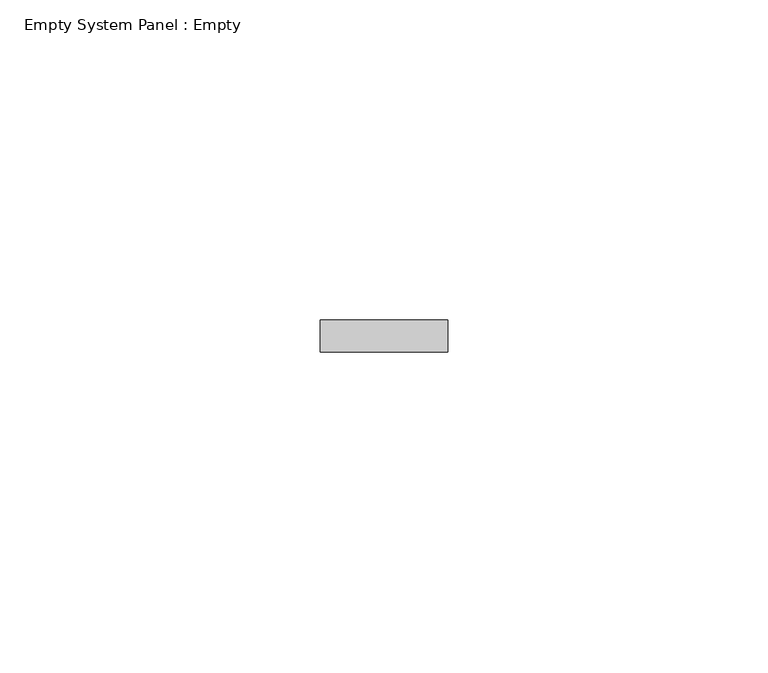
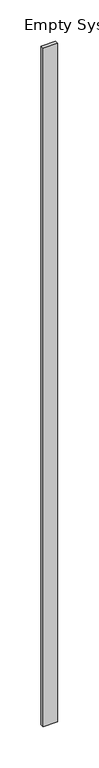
"""IFC4 building model written with IfcOpenShell, lengths in millimetres: plate geometry, Empty System Panel : Empty."""

from ifc_helpers import new_model, si_unit, origin, origin_with_axes, place, context, project, spatial, polyline, outline, extrude, source, transform, mapped, element, save


def empty_system_panel_empty_9846729f(model_context):
    return source(origin(), model_context, "Body", "SweptSolid", [
        extrude(outline(polyline([(9.9999998, 97.5), (-9.9999998, 97.5), (-9.9999998, 102.5), (9.9999998, 102.5), (9.9999998, 97.5)])), origin_with_axes(), (0.0, 0.0, 1.0), 1000.0),
    ])


if __name__ == "__main__":
    model = new_model("IFC4")
    model_context = context("Model", 3, world=origin())
    ifc_project = project(units=[si_unit("LENGTHUNIT", "METRE", prefix="MILLI")], contexts=[model_context])
    site = spatial("IfcSite", under=ifc_project)
    building = spatial("IfcBuilding", under=site)
    placement = place(None, origin())
    empty_system_panel_empty_shape = empty_system_panel_empty_9846729f(model_context)
    element("IfcPlate", 1, ObjectType="Empty System Panel : Empty", at=placement, inside=building, context=model_context, shape_type="MappedRepresentation", body=[
        mapped(empty_system_panel_empty_shape, transform((0.0, 0.0, 0.0), x_axis=(1.0, 0.0, 0.0), y_axis=(0.0, 1.0, 0.0), z_axis=(0.0, 0.0, 1.0))),
    ])
    save(model, "model.ifc")
